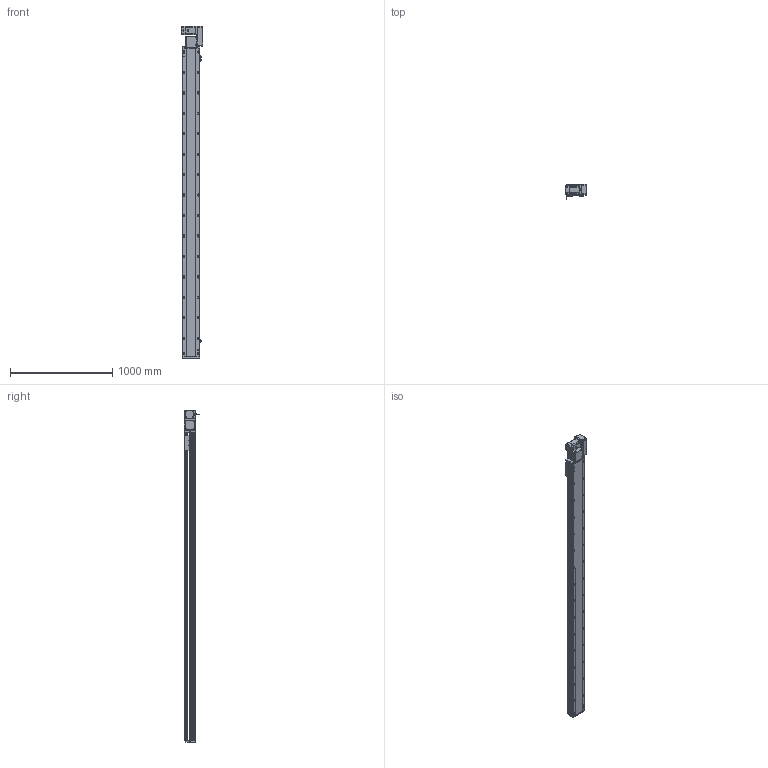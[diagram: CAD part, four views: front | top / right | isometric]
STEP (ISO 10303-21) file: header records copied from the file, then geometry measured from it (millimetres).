
FILE_DESCRIPTION (( 'STEP AP214' ), '1' );
FILE_NAME ('RTB17S-XX-2750-R-M75-C4.STEP', '2025-12-12T01:48:57', ( '' ), ( '' ), 'SwSTEP 2.0', 'SolidWorks 2018', '' );
FILE_SCHEMA (( 'AUTOMOTIVE_DESIGN' ));
Length unit declared in the file: millimetre
Products named in the file (15): RTB17S-L-014-T20-P75--々湍釱^RTB17S-R-々湍釱蚾饜-750W_RTB17S-XX-XX-R-M75-C4; EE672^RTB17S-XX-XX-R-M75-C4; RTB17S-L-004-賑釱^RTB17S-賑釱_RTB17S-XX-XX-R-M75-C4; RTB17S-L-001-耜醱啣^RTB17S-XX-XX-R-M75-C4; RTB17S-XX-2750-R-M75-C4; RTB22S-GY-005P^RTB17S-R-々湍釱蚾饜-750W_RTB17S-XX-XX-R-M75-C4; RTB22S-GY-017P^RTB17S-R-々湍釱蚾饜-750W_RTB17S-XX-XX-R-M75-C4; 750W萇儂^RTB17S-XX-XX-R-M75-C4; RTH13-BL-012覜茼え俋离^RTB17S-賑釱_RTB17S-XX-XX-R-M75-C4; RTB17S-L-007奻裔^RTB17S-XX-XX-R-M75-C4; RTB17S-賑釱^RTB17S-XX-XX-R-M75-C4; RTB17-R-011菁釱^RTB17S-XX-XX-R-M75-C4; RTB22S-GY-018P^RTB17S-R-々湍釱蚾饜-750W_RTB17S-XX-XX-R-M75-C4; RTB22S-GY-008-M75--萇儂啣^RTB17S-R-々湍釱蚾饜-750W_RTB17S-XX-XX-R-M75-C4; RTB17S-R-々湍釱蚾饜-750W^RTB17S-XX-XX-R-M75-C4
Assembly tree (17 placements, depth 3):
  RTB17S-XX-2750-R-M75-C4
    RTB17-R-011菁釱^RTB17S-XX-XX-R-M75-C4
    EE672^RTB17S-XX-XX-R-M75-C4  x3
    RTB17S-L-001-耜醱啣^RTB17S-XX-XX-R-M75-C4
    RTB17S-賑釱^RTB17S-XX-XX-R-M75-C4
      RTB17S-L-004-賑釱^RTB17S-賑釱_RTB17S-XX-XX-R-M75-C4
      RTH13-BL-012覜茼え俋离^RTB17S-賑釱_RTB17S-XX-XX-R-M75-C4
    RTB17S-L-007奻裔^RTB17S-XX-XX-R-M75-C4
    750W萇儂^RTB17S-XX-XX-R-M75-C4
    RTB17S-R-々湍釱蚾饜-750W^RTB17S-XX-XX-R-M75-C4
      RTB17S-L-014-T20-P75--々湍釱^RTB17S-R-々湍釱蚾饜-750W_RTB17S-XX-XX-R-M75-C4
      RTB22S-GY-005P^RTB17S-R-々湍釱蚾饜-750W_RTB17S-XX-XX-R-M75-C4
      RTB22S-GY-017P^RTB17S-R-々湍釱蚾饜-750W_RTB17S-XX-XX-R-M75-C4  x2
      RTB22S-GY-008-M75--萇儂啣^RTB17S-R-々湍釱蚾饜-750W_RTB17S-XX-XX-R-M75-C4
      RTB22S-GY-018P^RTB17S-R-々湍釱蚾饜-750W_RTB17S-XX-XX-R-M75-C4
Bounding box: 207.4 x 152.7 x 3249 mm (x, y, z)
Volume: 23140667.1 mm3; surface area: 4220495.2 mm2
Topology: 17 solids, 17 shells, 2233 faces, 6268 edges, 4058 vertices
Faces by surface type: plane 988, cylinder 829, bspline 294, cone 110, sphere 8, torus 4
Entity records: 65014 total; most frequent: CARTESIAN_POINT 19332, ORIENTED_EDGE 9380, DIRECTION 8672, EDGE_CURVE 4690, AXIS2_PLACEMENT_3D 3078, VERTEX_POINT 3062, LINE 2516, VECTOR 2516
